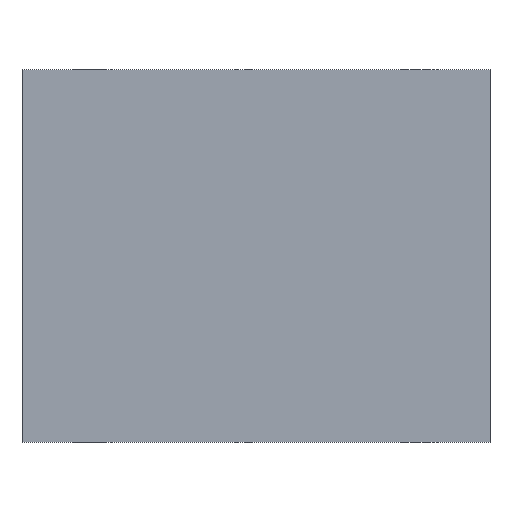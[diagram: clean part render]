
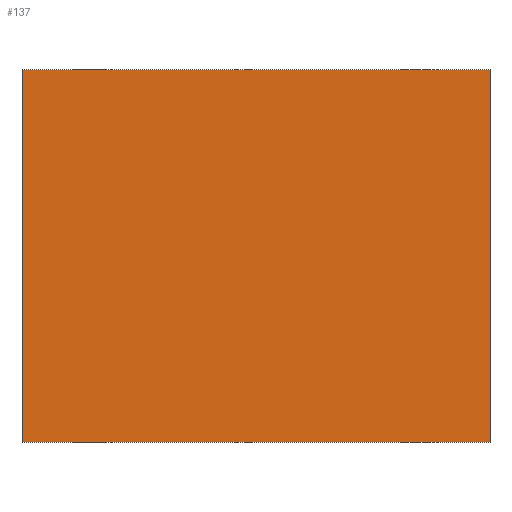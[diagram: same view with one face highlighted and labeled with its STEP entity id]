
A CAD part, front view. The second image highlights one B-rep face of the part: STEP entity #137.
In plain terms, the highlighted planar face has unit normal (0, -1, 0).
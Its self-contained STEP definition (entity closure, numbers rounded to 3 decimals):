
#21 = EDGE_CURVE('',#22,#24,#26,.T.);
#22 = VERTEX_POINT('',#23);
#23 = CARTESIAN_POINT('',(-32.5,-14.9,-25.85));
#24 = VERTEX_POINT('',#25);
#25 = CARTESIAN_POINT('',(-32.5,-14.9,25.85));
#26 = SURFACE_CURVE('',#27,(#31,#43),.PCURVE_S1.);
#27 = LINE('',#28,#29);
#28 = CARTESIAN_POINT('',(-32.5,-14.9,-25.85));
#29 = VECTOR('',#30,1.);
#30 = DIRECTION('',(0.,0.,1.));
#31 = PCURVE('',#32,#37);
#32 = PLANE('',#33);
#33 = AXIS2_PLACEMENT_3D('',#34,#35,#36);
#34 = CARTESIAN_POINT('',(-32.5,-14.9,-25.85));
#35 = DIRECTION('',(1.,0.,0.));
#36 = DIRECTION('',(0.,0.,1.));
#37 = DEFINITIONAL_REPRESENTATION('',(#38),#42);
#38 = LINE('',#39,#40);
#39 = CARTESIAN_POINT('',(0.,0.));
#40 = VECTOR('',#41,1.);
#41 = DIRECTION('',(1.,0.));
#42 = ( GEOMETRIC_REPRESENTATION_CONTEXT(2) 
PARAMETRIC_REPRESENTATION_CONTEXT() REPRESENTATION_CONTEXT('2D SPACE',''
  ) );
#43 = PCURVE('',#44,#49);
#44 = PLANE('',#45);
#45 = AXIS2_PLACEMENT_3D('',#46,#47,#48);
#46 = CARTESIAN_POINT('',(-32.5,-14.9,-25.85));
#47 = DIRECTION('',(0.,1.,0.));
#48 = DIRECTION('',(0.,0.,1.));
#49 = DEFINITIONAL_REPRESENTATION('',(#50),#54);
#50 = LINE('',#51,#52);
#51 = CARTESIAN_POINT('',(0.,0.));
#52 = VECTOR('',#53,1.);
#53 = DIRECTION('',(1.,0.));
#54 = ( GEOMETRIC_REPRESENTATION_CONTEXT(2) 
PARAMETRIC_REPRESENTATION_CONTEXT() REPRESENTATION_CONTEXT('2D SPACE',''
  ) );
#72 = PLANE('',#73);
#73 = AXIS2_PLACEMENT_3D('',#74,#75,#76);
#74 = CARTESIAN_POINT('',(-32.5,-14.9,-25.85));
#75 = DIRECTION('',(0.,0.,1.));
#76 = DIRECTION('',(1.,0.,0.));
#126 = PLANE('',#127);
#127 = AXIS2_PLACEMENT_3D('',#128,#129,#130);
#128 = CARTESIAN_POINT('',(-32.5,-14.9,25.85));
#129 = DIRECTION('',(0.,0.,1.));
#130 = DIRECTION('',(1.,0.,0.));
#137 = ADVANCED_FACE('',(#138),#44,.F.);
#138 = FACE_BOUND('',#139,.F.);
#139 = EDGE_LOOP('',(#140,#163,#164,#187));
#140 = ORIENTED_EDGE('',*,*,#141,.F.);
#141 = EDGE_CURVE('',#22,#142,#144,.T.);
#142 = VERTEX_POINT('',#143);
#143 = CARTESIAN_POINT('',(32.5,-14.9,-25.85));
#144 = SURFACE_CURVE('',#145,(#149,#156),.PCURVE_S1.);
#145 = LINE('',#146,#147);
#146 = CARTESIAN_POINT('',(-32.5,-14.9,-25.85));
#147 = VECTOR('',#148,1.);
#148 = DIRECTION('',(1.,0.,0.));
#149 = PCURVE('',#44,#150);
#150 = DEFINITIONAL_REPRESENTATION('',(#151),#155);
#151 = LINE('',#152,#153);
#152 = CARTESIAN_POINT('',(0.,0.));
#153 = VECTOR('',#154,1.);
#154 = DIRECTION('',(0.,1.));
#155 = ( GEOMETRIC_REPRESENTATION_CONTEXT(2) 
PARAMETRIC_REPRESENTATION_CONTEXT() REPRESENTATION_CONTEXT('2D SPACE',''
  ) );
#156 = PCURVE('',#72,#157);
#157 = DEFINITIONAL_REPRESENTATION('',(#158),#162);
#158 = LINE('',#159,#160);
#159 = CARTESIAN_POINT('',(0.,0.));
#160 = VECTOR('',#161,1.);
#161 = DIRECTION('',(1.,0.));
#162 = ( GEOMETRIC_REPRESENTATION_CONTEXT(2) 
PARAMETRIC_REPRESENTATION_CONTEXT() REPRESENTATION_CONTEXT('2D SPACE',''
  ) );
#163 = ORIENTED_EDGE('',*,*,#21,.T.);
#164 = ORIENTED_EDGE('',*,*,#165,.T.);
#165 = EDGE_CURVE('',#24,#166,#168,.T.);
#166 = VERTEX_POINT('',#167);
#167 = CARTESIAN_POINT('',(32.5,-14.9,25.85));
#168 = SURFACE_CURVE('',#169,(#173,#180),.PCURVE_S1.);
#169 = LINE('',#170,#171);
#170 = CARTESIAN_POINT('',(-32.5,-14.9,25.85));
#171 = VECTOR('',#172,1.);
#172 = DIRECTION('',(1.,0.,0.));
#173 = PCURVE('',#44,#174);
#174 = DEFINITIONAL_REPRESENTATION('',(#175),#179);
#175 = LINE('',#176,#177);
#176 = CARTESIAN_POINT('',(51.7,0.));
#177 = VECTOR('',#178,1.);
#178 = DIRECTION('',(0.,1.));
#179 = ( GEOMETRIC_REPRESENTATION_CONTEXT(2) 
PARAMETRIC_REPRESENTATION_CONTEXT() REPRESENTATION_CONTEXT('2D SPACE',''
  ) );
#180 = PCURVE('',#126,#181);
#181 = DEFINITIONAL_REPRESENTATION('',(#182),#186);
#182 = LINE('',#183,#184);
#183 = CARTESIAN_POINT('',(0.,0.));
#184 = VECTOR('',#185,1.);
#185 = DIRECTION('',(1.,0.));
#186 = ( GEOMETRIC_REPRESENTATION_CONTEXT(2) 
PARAMETRIC_REPRESENTATION_CONTEXT() REPRESENTATION_CONTEXT('2D SPACE',''
  ) );
#187 = ORIENTED_EDGE('',*,*,#188,.F.);
#188 = EDGE_CURVE('',#142,#166,#189,.T.);
#189 = SURFACE_CURVE('',#190,(#194,#201),.PCURVE_S1.);
#190 = LINE('',#191,#192);
#191 = CARTESIAN_POINT('',(32.5,-14.9,-25.85));
#192 = VECTOR('',#193,1.);
#193 = DIRECTION('',(0.,0.,1.));
#194 = PCURVE('',#44,#195);
#195 = DEFINITIONAL_REPRESENTATION('',(#196),#200);
#196 = LINE('',#197,#198);
#197 = CARTESIAN_POINT('',(0.,65.));
#198 = VECTOR('',#199,1.);
#199 = DIRECTION('',(1.,0.));
#200 = ( GEOMETRIC_REPRESENTATION_CONTEXT(2) 
PARAMETRIC_REPRESENTATION_CONTEXT() REPRESENTATION_CONTEXT('2D SPACE',''
  ) );
#201 = PCURVE('',#202,#207);
#202 = PLANE('',#203);
#203 = AXIS2_PLACEMENT_3D('',#204,#205,#206);
#204 = CARTESIAN_POINT('',(32.5,-14.9,-25.85));
#205 = DIRECTION('',(1.,0.,0.));
#206 = DIRECTION('',(0.,0.,1.));
#207 = DEFINITIONAL_REPRESENTATION('',(#208),#212);
#208 = LINE('',#209,#210);
#209 = CARTESIAN_POINT('',(0.,0.));
#210 = VECTOR('',#211,1.);
#211 = DIRECTION('',(1.,0.));
#212 = ( GEOMETRIC_REPRESENTATION_CONTEXT(2) 
PARAMETRIC_REPRESENTATION_CONTEXT() REPRESENTATION_CONTEXT('2D SPACE',''
  ) );
